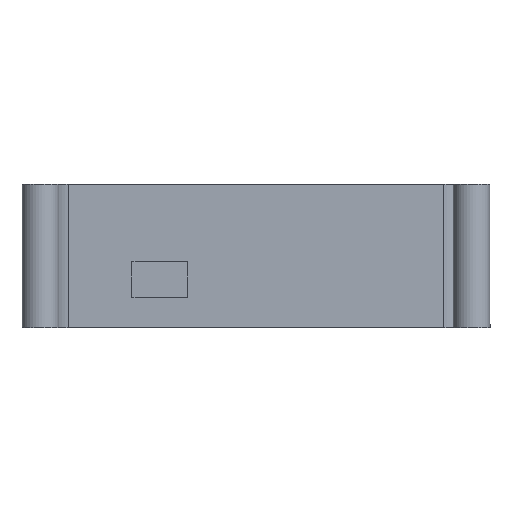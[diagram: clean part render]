
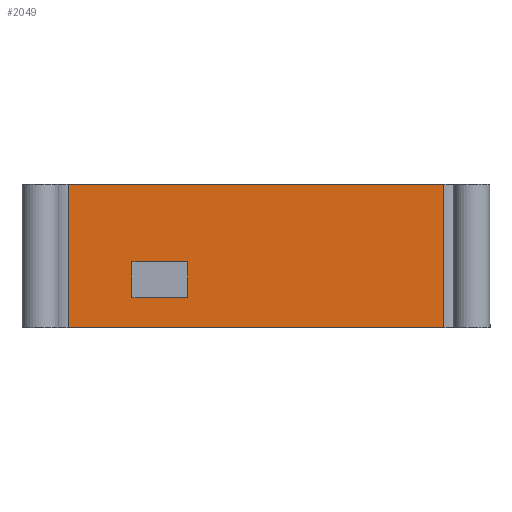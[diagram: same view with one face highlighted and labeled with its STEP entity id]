
A CAD part, left-side view. The second image highlights one B-rep face of the part: STEP entity #2049.
In plain terms, the highlighted planar face has unit normal (-1, 0, 0).
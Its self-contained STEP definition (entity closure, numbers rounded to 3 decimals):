
#45 = PLANE('',#46);
#46 = AXIS2_PLACEMENT_3D('',#47,#48,#49);
#47 = CARTESIAN_POINT('',(99.55,53.95,47.95));
#48 = DIRECTION('',(0.,0.,1.));
#49 = DIRECTION('',(1.,0.,0.));
#100 = PLANE('',#101);
#101 = AXIS2_PLACEMENT_3D('',#102,#103,#104);
#102 = CARTESIAN_POINT('',(99.55,53.95,83.95));
#103 = DIRECTION('',(0.,0.,1.));
#104 = DIRECTION('',(1.,0.,0.));
#263 = VERTEX_POINT('',#264);
#264 = CARTESIAN_POINT('',(-98.,47.,47.95));
#283 = CYLINDRICAL_SURFACE('',#284,7.);
#284 = AXIS2_PLACEMENT_3D('',#285,#286,#287);
#285 = CARTESIAN_POINT('',(-91.,47.,47.95));
#286 = DIRECTION('',(0.,0.,1.));
#287 = DIRECTION('',(-1.,0.,0.));
#295 = EDGE_CURVE('',#296,#263,#298,.T.);
#296 = VERTEX_POINT('',#297);
#297 = CARTESIAN_POINT('',(-98.,-47.,47.95));
#298 = SURFACE_CURVE('',#299,(#303,#310),.PCURVE_S1.);
#299 = LINE('',#300,#301);
#300 = CARTESIAN_POINT('',(-98.,-54.,47.95));
#301 = VECTOR('',#302,1.);
#302 = DIRECTION('',(0.,1.,0.));
#303 = PCURVE('',#45,#304);
#304 = DEFINITIONAL_REPRESENTATION('',(#305),#309);
#305 = LINE('',#306,#307);
#306 = CARTESIAN_POINT('',(-197.55,-107.95));
#307 = VECTOR('',#308,1.);
#308 = DIRECTION('',(0.,1.));
#309 = ( GEOMETRIC_REPRESENTATION_CONTEXT(2) 
PARAMETRIC_REPRESENTATION_CONTEXT() REPRESENTATION_CONTEXT('2D SPACE',''
  ) );
#310 = PCURVE('',#311,#316);
#311 = PLANE('',#312);
#312 = AXIS2_PLACEMENT_3D('',#313,#314,#315);
#313 = CARTESIAN_POINT('',(-98.,-54.,47.95));
#314 = DIRECTION('',(1.,0.,0.));
#315 = DIRECTION('',(0.,0.,1.));
#316 = DEFINITIONAL_REPRESENTATION('',(#317),#321);
#317 = LINE('',#318,#319);
#318 = CARTESIAN_POINT('',(0.,0.));
#319 = VECTOR('',#320,1.);
#320 = DIRECTION('',(0.,-1.));
#321 = ( GEOMETRIC_REPRESENTATION_CONTEXT(2) 
PARAMETRIC_REPRESENTATION_CONTEXT() REPRESENTATION_CONTEXT('2D SPACE',''
  ) );
#340 = CYLINDRICAL_SURFACE('',#341,7.);
#341 = AXIS2_PLACEMENT_3D('',#342,#343,#344);
#342 = CARTESIAN_POINT('',(-91.,-47.,47.95));
#343 = DIRECTION('',(0.,0.,1.));
#344 = DIRECTION('',(-1.,0.,0.));
#1072 = VERTEX_POINT('',#1073);
#1073 = CARTESIAN_POINT('',(-98.,47.,83.95));
#1099 = EDGE_CURVE('',#1100,#1072,#1102,.T.);
#1100 = VERTEX_POINT('',#1101);
#1101 = CARTESIAN_POINT('',(-98.,-47.,83.95));
#1102 = SURFACE_CURVE('',#1103,(#1107,#1114),.PCURVE_S1.);
#1103 = LINE('',#1104,#1105);
#1104 = CARTESIAN_POINT('',(-98.,-54.,83.95));
#1105 = VECTOR('',#1106,1.);
#1106 = DIRECTION('',(0.,1.,0.));
#1107 = PCURVE('',#100,#1108);
#1108 = DEFINITIONAL_REPRESENTATION('',(#1109),#1113);
#1109 = LINE('',#1110,#1111);
#1110 = CARTESIAN_POINT('',(-197.55,-107.95));
#1111 = VECTOR('',#1112,1.);
#1112 = DIRECTION('',(0.,1.));
#1113 = ( GEOMETRIC_REPRESENTATION_CONTEXT(2) 
PARAMETRIC_REPRESENTATION_CONTEXT() REPRESENTATION_CONTEXT('2D SPACE',''
  ) );
#1114 = PCURVE('',#311,#1115);
#1115 = DEFINITIONAL_REPRESENTATION('',(#1116),#1120);
#1116 = LINE('',#1117,#1118);
#1117 = CARTESIAN_POINT('',(36.,0.));
#1118 = VECTOR('',#1119,1.);
#1119 = DIRECTION('',(0.,-1.));
#1120 = ( GEOMETRIC_REPRESENTATION_CONTEXT(2) 
PARAMETRIC_REPRESENTATION_CONTEXT() REPRESENTATION_CONTEXT('2D SPACE',''
  ) );
#1922 = EDGE_CURVE('',#263,#1072,#1923,.T.);
#1923 = SURFACE_CURVE('',#1924,(#1928,#1935),.PCURVE_S1.);
#1924 = LINE('',#1925,#1926);
#1925 = CARTESIAN_POINT('',(-98.,47.,47.95));
#1926 = VECTOR('',#1927,1.);
#1927 = DIRECTION('',(0.,0.,1.));
#1928 = PCURVE('',#283,#1929);
#1929 = DEFINITIONAL_REPRESENTATION('',(#1930),#1934);
#1930 = LINE('',#1931,#1932);
#1931 = CARTESIAN_POINT('',(-0.,0.));
#1932 = VECTOR('',#1933,1.);
#1933 = DIRECTION('',(-0.,1.));
#1934 = ( GEOMETRIC_REPRESENTATION_CONTEXT(2) 
PARAMETRIC_REPRESENTATION_CONTEXT() REPRESENTATION_CONTEXT('2D SPACE',''
  ) );
#1935 = PCURVE('',#311,#1936);
#1936 = DEFINITIONAL_REPRESENTATION('',(#1937),#1941);
#1937 = LINE('',#1938,#1939);
#1938 = CARTESIAN_POINT('',(0.,-101.));
#1939 = VECTOR('',#1940,1.);
#1940 = DIRECTION('',(1.,0.));
#1941 = ( GEOMETRIC_REPRESENTATION_CONTEXT(2) 
PARAMETRIC_REPRESENTATION_CONTEXT() REPRESENTATION_CONTEXT('2D SPACE',''
  ) );
#2049 = ADVANCED_FACE('',(#2050,#2076),#311,.F.);
#2050 = FACE_BOUND('',#2051,.F.);
#2051 = EDGE_LOOP('',(#2052,#2053,#2074,#2075));
#2052 = ORIENTED_EDGE('',*,*,#1099,.F.);
#2053 = ORIENTED_EDGE('',*,*,#2054,.F.);
#2054 = EDGE_CURVE('',#296,#1100,#2055,.T.);
#2055 = SURFACE_CURVE('',#2056,(#2060,#2067),.PCURVE_S1.);
#2056 = LINE('',#2057,#2058);
#2057 = CARTESIAN_POINT('',(-98.,-47.,47.95));
#2058 = VECTOR('',#2059,1.);
#2059 = DIRECTION('',(0.,0.,1.));
#2060 = PCURVE('',#311,#2061);
#2061 = DEFINITIONAL_REPRESENTATION('',(#2062),#2066);
#2062 = LINE('',#2063,#2064);
#2063 = CARTESIAN_POINT('',(0.,-7.));
#2064 = VECTOR('',#2065,1.);
#2065 = DIRECTION('',(1.,0.));
#2066 = ( GEOMETRIC_REPRESENTATION_CONTEXT(2) 
PARAMETRIC_REPRESENTATION_CONTEXT() REPRESENTATION_CONTEXT('2D SPACE',''
  ) );
#2067 = PCURVE('',#340,#2068);
#2068 = DEFINITIONAL_REPRESENTATION('',(#2069),#2073);
#2069 = LINE('',#2070,#2071);
#2070 = CARTESIAN_POINT('',(0.,0.));
#2071 = VECTOR('',#2072,1.);
#2072 = DIRECTION('',(0.,1.));
#2073 = ( GEOMETRIC_REPRESENTATION_CONTEXT(2) 
PARAMETRIC_REPRESENTATION_CONTEXT() REPRESENTATION_CONTEXT('2D SPACE',''
  ) );
#2074 = ORIENTED_EDGE('',*,*,#295,.T.);
#2075 = ORIENTED_EDGE('',*,*,#1922,.T.);
#2076 = FACE_BOUND('',#2077,.F.);
#2077 = EDGE_LOOP('',(#2078,#2106,#2132,#2158));
#2078 = ORIENTED_EDGE('',*,*,#2079,.T.);
#2079 = EDGE_CURVE('',#2080,#2082,#2084,.T.);
#2080 = VERTEX_POINT('',#2081);
#2081 = CARTESIAN_POINT('',(-98.,31.03,55.55));
#2082 = VERTEX_POINT('',#2083);
#2083 = CARTESIAN_POINT('',(-98.,17.03,55.55));
#2084 = SURFACE_CURVE('',#2085,(#2089,#2095),.PCURVE_S1.);
#2085 = LINE('',#2086,#2087);
#2086 = CARTESIAN_POINT('',(-98.,-18.485,55.55));
#2087 = VECTOR('',#2088,1.);
#2088 = DIRECTION('',(0.,-1.,0.));
#2089 = PCURVE('',#311,#2090);
#2090 = DEFINITIONAL_REPRESENTATION('',(#2091),#2094);
#2091 = B_SPLINE_CURVE_WITH_KNOTS('',1,(#2092,#2093),.UNSPECIFIED.,.F.,
  .F.,(2,2),(-49.515,-35.515),.PIECEWISE_BEZIER_KNOTS.);
#2092 = CARTESIAN_POINT('',(7.6,-85.03));
#2093 = CARTESIAN_POINT('',(7.6,-71.03));
#2094 = ( GEOMETRIC_REPRESENTATION_CONTEXT(2) 
PARAMETRIC_REPRESENTATION_CONTEXT() REPRESENTATION_CONTEXT('2D SPACE',''
  ) );
#2095 = PCURVE('',#2096,#2101);
#2096 = PLANE('',#2097);
#2097 = AXIS2_PLACEMENT_3D('',#2098,#2099,#2100);
#2098 = CARTESIAN_POINT('',(-101.,17.03,55.55));
#2099 = DIRECTION('',(0.,0.,1.));
#2100 = DIRECTION('',(1.,0.,0.));
#2101 = DEFINITIONAL_REPRESENTATION('',(#2102),#2105);
#2102 = B_SPLINE_CURVE_WITH_KNOTS('',1,(#2103,#2104),.UNSPECIFIED.,.F.,
  .F.,(2,2),(-49.515,-35.515),.PIECEWISE_BEZIER_KNOTS.);
#2103 = CARTESIAN_POINT('',(3.,14.));
#2104 = CARTESIAN_POINT('',(3.,0.));
#2105 = ( GEOMETRIC_REPRESENTATION_CONTEXT(2) 
PARAMETRIC_REPRESENTATION_CONTEXT() REPRESENTATION_CONTEXT('2D SPACE',''
  ) );
#2106 = ORIENTED_EDGE('',*,*,#2107,.T.);
#2107 = EDGE_CURVE('',#2082,#2108,#2110,.T.);
#2108 = VERTEX_POINT('',#2109);
#2109 = CARTESIAN_POINT('',(-98.,17.03,64.55));
#2110 = SURFACE_CURVE('',#2111,(#2115,#2121),.PCURVE_S1.);
#2111 = LINE('',#2112,#2113);
#2112 = CARTESIAN_POINT('',(-98.,17.03,51.75));
#2113 = VECTOR('',#2114,1.);
#2114 = DIRECTION('',(0.,0.,1.));
#2115 = PCURVE('',#311,#2116);
#2116 = DEFINITIONAL_REPRESENTATION('',(#2117),#2120);
#2117 = B_SPLINE_CURVE_WITH_KNOTS('',1,(#2118,#2119),.UNSPECIFIED.,.F.,
  .F.,(2,2),(3.8,12.8),.PIECEWISE_BEZIER_KNOTS.);
#2118 = CARTESIAN_POINT('',(7.6,-71.03));
#2119 = CARTESIAN_POINT('',(16.6,-71.03));
#2120 = ( GEOMETRIC_REPRESENTATION_CONTEXT(2) 
PARAMETRIC_REPRESENTATION_CONTEXT() REPRESENTATION_CONTEXT('2D SPACE',''
  ) );
#2121 = PCURVE('',#2122,#2127);
#2122 = PLANE('',#2123);
#2123 = AXIS2_PLACEMENT_3D('',#2124,#2125,#2126);
#2124 = CARTESIAN_POINT('',(-101.,17.03,55.55));
#2125 = DIRECTION('',(0.,1.,0.));
#2126 = DIRECTION('',(0.,0.,1.));
#2127 = DEFINITIONAL_REPRESENTATION('',(#2128),#2131);
#2128 = B_SPLINE_CURVE_WITH_KNOTS('',1,(#2129,#2130),.UNSPECIFIED.,.F.,
  .F.,(2,2),(3.8,12.8),.PIECEWISE_BEZIER_KNOTS.);
#2129 = CARTESIAN_POINT('',(0.,3.));
#2130 = CARTESIAN_POINT('',(9.,3.));
#2131 = ( GEOMETRIC_REPRESENTATION_CONTEXT(2) 
PARAMETRIC_REPRESENTATION_CONTEXT() REPRESENTATION_CONTEXT('2D SPACE',''
  ) );
#2132 = ORIENTED_EDGE('',*,*,#2133,.F.);
#2133 = EDGE_CURVE('',#2134,#2108,#2136,.T.);
#2134 = VERTEX_POINT('',#2135);
#2135 = CARTESIAN_POINT('',(-98.,31.03,64.55));
#2136 = SURFACE_CURVE('',#2137,(#2141,#2147),.PCURVE_S1.);
#2137 = LINE('',#2138,#2139);
#2138 = CARTESIAN_POINT('',(-98.,-18.485,64.55));
#2139 = VECTOR('',#2140,1.);
#2140 = DIRECTION('',(0.,-1.,0.));
#2141 = PCURVE('',#311,#2142);
#2142 = DEFINITIONAL_REPRESENTATION('',(#2143),#2146);
#2143 = B_SPLINE_CURVE_WITH_KNOTS('',1,(#2144,#2145),.UNSPECIFIED.,.F.,
  .F.,(2,2),(-49.515,-35.515),.PIECEWISE_BEZIER_KNOTS.);
#2144 = CARTESIAN_POINT('',(16.6,-85.03));
#2145 = CARTESIAN_POINT('',(16.6,-71.03));
#2146 = ( GEOMETRIC_REPRESENTATION_CONTEXT(2) 
PARAMETRIC_REPRESENTATION_CONTEXT() REPRESENTATION_CONTEXT('2D SPACE',''
  ) );
#2147 = PCURVE('',#2148,#2153);
#2148 = PLANE('',#2149);
#2149 = AXIS2_PLACEMENT_3D('',#2150,#2151,#2152);
#2150 = CARTESIAN_POINT('',(-101.,17.03,64.55));
#2151 = DIRECTION('',(0.,0.,1.));
#2152 = DIRECTION('',(1.,0.,0.));
#2153 = DEFINITIONAL_REPRESENTATION('',(#2154),#2157);
#2154 = B_SPLINE_CURVE_WITH_KNOTS('',1,(#2155,#2156),.UNSPECIFIED.,.F.,
  .F.,(2,2),(-49.515,-35.515),.PIECEWISE_BEZIER_KNOTS.);
#2155 = CARTESIAN_POINT('',(3.,14.));
#2156 = CARTESIAN_POINT('',(3.,0.));
#2157 = ( GEOMETRIC_REPRESENTATION_CONTEXT(2) 
PARAMETRIC_REPRESENTATION_CONTEXT() REPRESENTATION_CONTEXT('2D SPACE',''
  ) );
#2158 = ORIENTED_EDGE('',*,*,#2159,.F.);
#2159 = EDGE_CURVE('',#2080,#2134,#2160,.T.);
#2160 = SURFACE_CURVE('',#2161,(#2165,#2171),.PCURVE_S1.);
#2161 = LINE('',#2162,#2163);
#2162 = CARTESIAN_POINT('',(-98.,31.03,51.75));
#2163 = VECTOR('',#2164,1.);
#2164 = DIRECTION('',(0.,0.,1.));
#2165 = PCURVE('',#311,#2166);
#2166 = DEFINITIONAL_REPRESENTATION('',(#2167),#2170);
#2167 = B_SPLINE_CURVE_WITH_KNOTS('',1,(#2168,#2169),.UNSPECIFIED.,.F.,
  .F.,(2,2),(3.8,12.8),.PIECEWISE_BEZIER_KNOTS.);
#2168 = CARTESIAN_POINT('',(7.6,-85.03));
#2169 = CARTESIAN_POINT('',(16.6,-85.03));
#2170 = ( GEOMETRIC_REPRESENTATION_CONTEXT(2) 
PARAMETRIC_REPRESENTATION_CONTEXT() REPRESENTATION_CONTEXT('2D SPACE',''
  ) );
#2171 = PCURVE('',#2172,#2177);
#2172 = PLANE('',#2173);
#2173 = AXIS2_PLACEMENT_3D('',#2174,#2175,#2176);
#2174 = CARTESIAN_POINT('',(-101.,31.03,55.55));
#2175 = DIRECTION('',(0.,1.,0.));
#2176 = DIRECTION('',(0.,0.,1.));
#2177 = DEFINITIONAL_REPRESENTATION('',(#2178),#2181);
#2178 = B_SPLINE_CURVE_WITH_KNOTS('',1,(#2179,#2180),.UNSPECIFIED.,.F.,
  .F.,(2,2),(3.8,12.8),.PIECEWISE_BEZIER_KNOTS.);
#2179 = CARTESIAN_POINT('',(0.,3.));
#2180 = CARTESIAN_POINT('',(9.,3.));
#2181 = ( GEOMETRIC_REPRESENTATION_CONTEXT(2) 
PARAMETRIC_REPRESENTATION_CONTEXT() REPRESENTATION_CONTEXT('2D SPACE',''
  ) );
